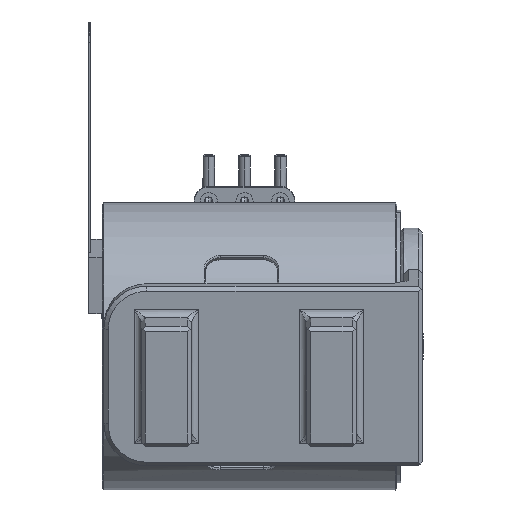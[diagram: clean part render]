
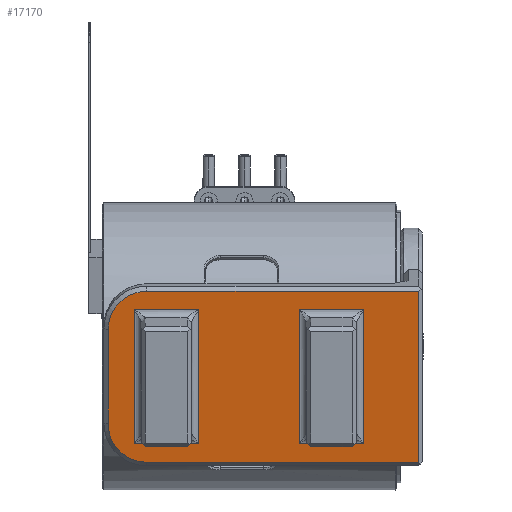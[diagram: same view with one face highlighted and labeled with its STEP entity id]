
A CAD part, left-side view. The second image highlights one B-rep face of the part: STEP entity #17170.
In plain terms, the highlighted planar face has unit normal (-0.985, 0, -0.174) as drawn and (0, 1, 0) by its records, which use the part's own axes.
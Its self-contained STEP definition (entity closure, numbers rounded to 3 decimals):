
#13556=DIRECTION('',(0.,0.,-1.));
#13557=VECTOR('',#13556,18.9);
#13558=CARTESIAN_POINT('',(-4.715,-16.748,
42.9));
#13559=LINE('',#13558,#13557);
#13560=DIRECTION('',(1.,0.,0.));
#13561=VECTOR('',#13560,12.1);
#13562=CARTESIAN_POINT('',(-4.715,-16.748,24.001));
#13563=LINE('',#13562,#13561);
#13564=DIRECTION('',(0.,0.,1.));
#13565=VECTOR('',#13564,18.9);
#13566=CARTESIAN_POINT('',(7.385,-16.748,24.001));
#13567=LINE('',#13566,#13565);
#13568=CARTESIAN_POINT('',(4.685,-16.748,42.901));
#13569=DIRECTION('',(0.,-1.,0.));
#13570=DIRECTION('',(1.,0.,0.));
#13571=AXIS2_PLACEMENT_3D('',#13568,#13569,#13570);
#13573=DIRECTION('',(-1.,0.,0.));
#13574=VECTOR('',#13573,6.7);
#13575=CARTESIAN_POINT('',(4.685,-16.748,
45.6));
#13576=LINE('',#13575,#13574);
#13577=CARTESIAN_POINT('',(-2.015,-16.748,42.901));
#13578=DIRECTION('',(0.,-1.,0.));
#13579=DIRECTION('',(0.,0.,1.));
#13580=AXIS2_PLACEMENT_3D('',#13577,#13578,#13579);
#15109=DIRECTION('',(0.,0.,-1.));
#15110=VECTOR('',#15109,4.5);
#15111=CARTESIAN_POINT('',(-3.415,-16.748,32.301));
#15112=LINE('',#15111,#15110);
#15295=CARTESIAN_POINT('',(-3.415,-16.748,27.801));
#15319=DIRECTION('',(1.,0.,0.));
#15320=VECTOR('',#15319,9.5);
#15321=CARTESIAN_POINT('',(-3.415,-16.748,27.801));
#15322=LINE('',#15321,#15320);
#15357=CARTESIAN_POINT('',(6.085,-16.748,27.801));
#15363=DIRECTION('',(0.,0.,1.));
#15364=VECTOR('',#15363,4.5);
#15365=CARTESIAN_POINT('',(6.085,-16.748,27.801));
#15366=LINE('',#15365,#15364);
#15401=CARTESIAN_POINT('',(6.085,-16.748,32.301));
#15403=DIRECTION('',(-1.,0.,0.));
#15404=VECTOR('',#15403,9.5);
#15405=CARTESIAN_POINT('',(6.085,-16.748,32.301));
#15406=LINE('',#15405,#15404);
#15595=DIRECTION('',(0.,0.,1.));
#15596=VECTOR('',#15595,4.5);
#15597=CARTESIAN_POINT('',(6.085,-16.748,39.301));
#15598=LINE('',#15597,#15596);
#15785=DIRECTION('',(-1.,0.,0.));
#15786=VECTOR('',#15785,9.5);
#15787=CARTESIAN_POINT('',(6.085,-16.748,43.801));
#15788=LINE('',#15787,#15786);
#15833=DIRECTION('',(0.,0.,-1.));
#15834=VECTOR('',#15833,4.5);
#15835=CARTESIAN_POINT('',(-3.415,-16.748,43.801));
#15836=LINE('',#15835,#15834);
#15873=DIRECTION('',(1.,0.,0.));
#15874=VECTOR('',#15873,9.5);
#15875=CARTESIAN_POINT('',(-3.415,-16.748,39.301));
#15876=LINE('',#15875,#15874);
#16155=VERTEX_POINT('',#15295);
#16157=VERTEX_POINT('',#15357);
#16158=VERTEX_POINT('',#15401);
#16159=CARTESIAN_POINT('',(-3.415,-16.748,32.301));
#16160=VERTEX_POINT('',#16159);
#16161=CARTESIAN_POINT('',(-4.715,-16.748,
42.9));
#16162=CARTESIAN_POINT('',(-4.715,-16.748,24.001));
#16163=VERTEX_POINT('',#16161);
#16164=VERTEX_POINT('',#16162);
#16165=CARTESIAN_POINT('',(7.385,-16.748,24.001));
#16166=VERTEX_POINT('',#16165);
#16167=CARTESIAN_POINT('',(7.385,-16.748,
42.9));
#16168=VERTEX_POINT('',#16167);
#16169=CARTESIAN_POINT('',(4.685,-16.748,45.601));
#16170=VERTEX_POINT('',#16169);
#16171=CARTESIAN_POINT('',(-2.015,-16.748,
45.6));
#16172=VERTEX_POINT('',#16171);
#16173=CARTESIAN_POINT('',(6.085,-16.748,39.301));
#16174=CARTESIAN_POINT('',(6.085,-16.748,43.801));
#16175=VERTEX_POINT('',#16173);
#16176=VERTEX_POINT('',#16174);
#16177=CARTESIAN_POINT('',(-3.415,-16.748,39.301));
#16178=VERTEX_POINT('',#16177);
#16179=CARTESIAN_POINT('',(-3.415,-16.748,43.801));
#16180=VERTEX_POINT('',#16179);
#17132=CARTESIAN_POINT('',(0.,-16.748,0.));
#17133=DIRECTION('',(0.,1.,0.));
#17134=DIRECTION('',(-1.,0.,0.));
#17135=AXIS2_PLACEMENT_3D('',#17132,#17133,#17134);
#17136=PLANE('',#17135);
#17137=ORIENTED_EDGE('',*,*,#17121,.T.);
#17139=ORIENTED_EDGE('',*,*,#17138,.T.);
#17141=ORIENTED_EDGE('',*,*,#17140,.T.);
#17143=ORIENTED_EDGE('',*,*,#17142,.T.);
#17145=ORIENTED_EDGE('',*,*,#17144,.T.);
#17147=ORIENTED_EDGE('',*,*,#17146,.T.);
#17148=EDGE_LOOP('',(#17137,#17139,#17141,#17143,#17145,#17147));
#17149=FACE_OUTER_BOUND('',#17148,.F.);
#17151=ORIENTED_EDGE('',*,*,#17150,.F.);
#17153=ORIENTED_EDGE('',*,*,#17152,.F.);
#17155=ORIENTED_EDGE('',*,*,#17154,.F.);
#17157=ORIENTED_EDGE('',*,*,#17156,.F.);
#17158=EDGE_LOOP('',(#17151,#17153,#17155,#17157));
#17159=FACE_BOUND('',#17158,.F.);
#17161=ORIENTED_EDGE('',*,*,#17160,.F.);
#17163=ORIENTED_EDGE('',*,*,#17162,.F.);
#17165=ORIENTED_EDGE('',*,*,#17164,.F.);
#17167=ORIENTED_EDGE('',*,*,#17166,.F.);
#17168=EDGE_LOOP('',(#17161,#17163,#17165,#17167));
#17169=FACE_BOUND('',#17168,.F.);
#17170=ADVANCED_FACE('',(#17149,#17159,#17169),#17136,.T.);
#13572=CIRCLE('',#13571,2.7);
#13581=CIRCLE('',#13580,2.7);
#17121=EDGE_CURVE('',#16163,#16164,#13559,.T.);
#17138=EDGE_CURVE('',#16164,#16166,#13563,.T.);
#17140=EDGE_CURVE('',#16166,#16168,#13567,.T.);
#17142=EDGE_CURVE('',#16168,#16170,#13572,.T.);
#17144=EDGE_CURVE('',#16170,#16172,#13576,.T.);
#17146=EDGE_CURVE('',#16172,#16163,#13581,.T.);
#17150=EDGE_CURVE('',#16160,#16155,#15112,.T.);
#17152=EDGE_CURVE('',#16158,#16160,#15406,.T.);
#17154=EDGE_CURVE('',#16157,#16158,#15366,.T.);
#17156=EDGE_CURVE('',#16155,#16157,#15322,.T.);
#17160=EDGE_CURVE('',#16175,#16176,#15598,.T.);
#17162=EDGE_CURVE('',#16178,#16175,#15876,.T.);
#17164=EDGE_CURVE('',#16180,#16178,#15836,.T.);
#17166=EDGE_CURVE('',#16176,#16180,#15788,.T.);
